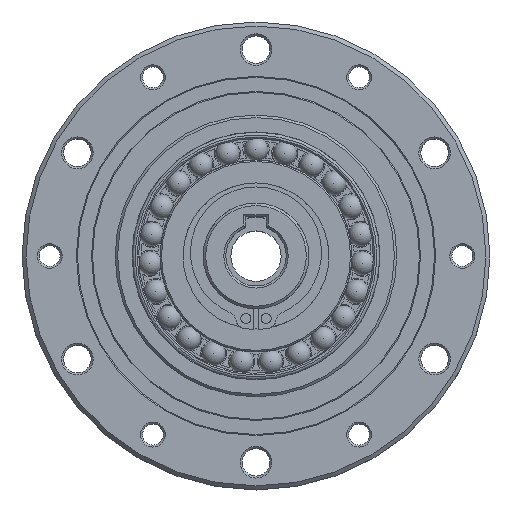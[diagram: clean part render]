
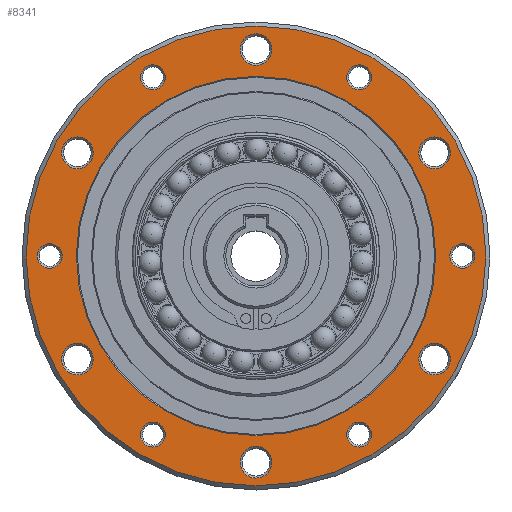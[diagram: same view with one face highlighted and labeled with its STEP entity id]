
A CAD part, top view. The second image highlights one B-rep face of the part: STEP entity #8341.
In plain terms, the highlighted planar face has unit normal (0, 0, 1).
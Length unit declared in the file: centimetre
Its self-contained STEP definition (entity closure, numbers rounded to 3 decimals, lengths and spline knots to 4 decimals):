
#1648=FACE_OUTER_BOUND($,#2571,.T.);
#2069=FACE_BOUND($,#2572,.T.);
#2070=FACE_BOUND($,#2573,.T.);
#2071=FACE_BOUND($,#2574,.T.);
#2072=FACE_BOUND($,#2575,.T.);
#2073=FACE_BOUND($,#2576,.T.);
#2074=FACE_BOUND($,#2577,.T.);
#2075=FACE_BOUND($,#2578,.T.);
#2076=FACE_BOUND($,#2579,.T.);
#2077=FACE_BOUND($,#2580,.T.);
#2078=FACE_BOUND($,#2581,.T.);
#2079=FACE_BOUND($,#2582,.T.);
#2080=FACE_BOUND($,#2583,.T.);
#2081=FACE_BOUND($,#2584,.T.);
#2571=EDGE_LOOP($,(#6590));
#2572=EDGE_LOOP($,(#6591));
#2573=EDGE_LOOP($,(#6592));
#2574=EDGE_LOOP($,(#6593));
#2575=EDGE_LOOP($,(#6594));
#2576=EDGE_LOOP($,(#6595));
#2577=EDGE_LOOP($,(#6596));
#2578=EDGE_LOOP($,(#6597));
#2579=EDGE_LOOP($,(#6598));
#2580=EDGE_LOOP($,(#6599));
#2581=EDGE_LOOP($,(#6600));
#2582=EDGE_LOOP($,(#6601));
#2583=EDGE_LOOP($,(#6602));
#2584=EDGE_LOOP($,(#6603));
#3537=CIRCLE($,#9332,4.57);
#3538=CIRCLE($,#9333,3.57);
#3539=CIRCLE($,#9334,0.315);
#3540=CIRCLE($,#9335,0.2467);
#3541=CIRCLE($,#9336,0.315);
#3542=CIRCLE($,#9337,0.2467);
#3543=CIRCLE($,#9338,0.315);
#3544=CIRCLE($,#9339,0.2467);
#3545=CIRCLE($,#9340,0.315);
#3546=CIRCLE($,#9341,0.2467);
#3547=CIRCLE($,#9342,0.315);
#3548=CIRCLE($,#9343,0.2467);
#3549=CIRCLE($,#9344,0.315);
#3550=CIRCLE($,#9345,0.2467);
#4218=VERTEX_POINT($,#14080);
#4219=VERTEX_POINT($,#14082);
#4220=VERTEX_POINT($,#14084);
#4221=VERTEX_POINT($,#14086);
#4222=VERTEX_POINT($,#14088);
#4223=VERTEX_POINT($,#14090);
#4224=VERTEX_POINT($,#14092);
#4225=VERTEX_POINT($,#14094);
#4226=VERTEX_POINT($,#14096);
#4227=VERTEX_POINT($,#14098);
#4228=VERTEX_POINT($,#14100);
#4229=VERTEX_POINT($,#14102);
#4230=VERTEX_POINT($,#14104);
#4231=VERTEX_POINT($,#14106);
#5150=EDGE_CURVE($,#4218,#4218,#3537,.T.);
#5151=EDGE_CURVE($,#4219,#4219,#3538,.T.);
#5152=EDGE_CURVE($,#4220,#4220,#3539,.T.);
#5153=EDGE_CURVE($,#4221,#4221,#3540,.T.);
#5154=EDGE_CURVE($,#4222,#4222,#3541,.T.);
#5155=EDGE_CURVE($,#4223,#4223,#3542,.T.);
#5156=EDGE_CURVE($,#4224,#4224,#3543,.T.);
#5157=EDGE_CURVE($,#4225,#4225,#3544,.T.);
#5158=EDGE_CURVE($,#4226,#4226,#3545,.T.);
#5159=EDGE_CURVE($,#4227,#4227,#3546,.T.);
#5160=EDGE_CURVE($,#4228,#4228,#3547,.T.);
#5161=EDGE_CURVE($,#4229,#4229,#3548,.T.);
#5162=EDGE_CURVE($,#4230,#4230,#3549,.T.);
#5163=EDGE_CURVE($,#4231,#4231,#3550,.T.);
#6590=ORIENTED_EDGE($,*,*,#5150,.F.);
#6591=ORIENTED_EDGE($,*,*,#5151,.F.);
#6592=ORIENTED_EDGE($,*,*,#5152,.F.);
#6593=ORIENTED_EDGE($,*,*,#5153,.F.);
#6594=ORIENTED_EDGE($,*,*,#5154,.F.);
#6595=ORIENTED_EDGE($,*,*,#5155,.F.);
#6596=ORIENTED_EDGE($,*,*,#5156,.F.);
#6597=ORIENTED_EDGE($,*,*,#5157,.F.);
#6598=ORIENTED_EDGE($,*,*,#5158,.F.);
#6599=ORIENTED_EDGE($,*,*,#5159,.F.);
#6600=ORIENTED_EDGE($,*,*,#5160,.F.);
#6601=ORIENTED_EDGE($,*,*,#5161,.F.);
#6602=ORIENTED_EDGE($,*,*,#5162,.F.);
#6603=ORIENTED_EDGE($,*,*,#5163,.F.);
#7983=PLANE($,#9331);
#8341=ADVANCED_FACE($,(#1648,#2069,#2070,#2071,#2072,#2073,#2074,#2075,
#2076,#2077,#2078,#2079,#2080,#2081),#7983,.T.);
#9331=AXIS2_PLACEMENT_3D($,#14079,#11369,#11370);
#9332=AXIS2_PLACEMENT_3D($,#14081,#11371,#11372);
#9333=AXIS2_PLACEMENT_3D($,#14083,#11373,#11374);
#9334=AXIS2_PLACEMENT_3D($,#14085,#11375,#11376);
#9335=AXIS2_PLACEMENT_3D($,#14087,#11377,#11378);
#9336=AXIS2_PLACEMENT_3D($,#14089,#11379,#11380);
#9337=AXIS2_PLACEMENT_3D($,#14091,#11381,#11382);
#9338=AXIS2_PLACEMENT_3D($,#14093,#11383,#11384);
#9339=AXIS2_PLACEMENT_3D($,#14095,#11385,#11386);
#9340=AXIS2_PLACEMENT_3D($,#14097,#11387,#11388);
#9341=AXIS2_PLACEMENT_3D($,#14099,#11389,#11390);
#9342=AXIS2_PLACEMENT_3D($,#14101,#11391,#11392);
#9343=AXIS2_PLACEMENT_3D($,#14103,#11393,#11394);
#9344=AXIS2_PLACEMENT_3D($,#14105,#11395,#11396);
#9345=AXIS2_PLACEMENT_3D($,#14107,#11397,#11398);
#11369=DIRECTION('center_axis',(0.,0.,
1.));
#11370=DIRECTION('ref_axis',(0.5,0.866,0.));
#11371=DIRECTION('center_axis',(0.,0.,
-1.));
#11372=DIRECTION('ref_axis',(0.866,-0.5,0.));
#11373=DIRECTION('center_axis',(0.,0.,
1.));
#11374=DIRECTION('ref_axis',(0.866,-0.5,0.));
#11375=DIRECTION('center_axis',(0.,0.,
1.));
#11376=DIRECTION('ref_axis',(-0.5,-0.866,0.));
#11377=DIRECTION('center_axis',(0.,0.,
1.));
#11378=DIRECTION('ref_axis',(-0.5,-0.866,0.));
#11379=DIRECTION('center_axis',(0.,0.,
1.));
#11380=DIRECTION('ref_axis',(-0.5,-0.866,0.));
#11381=DIRECTION('center_axis',(0.,0.,
1.));
#11382=DIRECTION('ref_axis',(-0.5,-0.866,0.));
#11383=DIRECTION('center_axis',(0.,0.,
1.));
#11384=DIRECTION('ref_axis',(-0.5,-0.866,0.));
#11385=DIRECTION('center_axis',(0.,0.,
1.));
#11386=DIRECTION('ref_axis',(-0.5,-0.866,0.));
#11387=DIRECTION('center_axis',(0.,0.,
1.));
#11388=DIRECTION('ref_axis',(-0.5,-0.866,0.));
#11389=DIRECTION('center_axis',(0.,0.,
1.));
#11390=DIRECTION('ref_axis',(-0.5,-0.866,0.));
#11391=DIRECTION('center_axis',(0.,0.,
1.));
#11392=DIRECTION('ref_axis',(-0.5,-0.866,0.));
#11393=DIRECTION('center_axis',(0.,0.,
1.));
#11394=DIRECTION('ref_axis',(-0.5,-0.866,0.));
#11395=DIRECTION('center_axis',(0.,0.,
1.));
#11396=DIRECTION('ref_axis',(-0.5,-0.866,0.));
#11397=DIRECTION('center_axis',(0.,0.,
1.));
#11398=DIRECTION('ref_axis',(-0.5,-0.866,0.));
#14079=CARTESIAN_POINT('Origin',(-6.9107,3.5703,0.1937));
#14080=CARTESIAN_POINT('',(-10.8685,5.8553,0.1937));
#14081=CARTESIAN_POINT('Origin',(-6.9107,3.5703,0.1937));
#14082=CARTESIAN_POINT('',(-10.0024,5.3553,0.1937));
#14083=CARTESIAN_POINT('Origin',(-6.9107,3.5703,0.1937));
#14084=CARTESIAN_POINT('',(-10.3039,5.893,0.1937));
#14085=CARTESIAN_POINT('Origin',(-10.4614,5.6203,0.1937));
#14086=CARTESIAN_POINT('',(-8.8374,7.3346,0.1937));
#14087=CARTESIAN_POINT('Origin',(-8.9607,7.121,0.1937));
#14088=CARTESIAN_POINT('',(-6.7532,7.943,0.1937));
#14089=CARTESIAN_POINT('Origin',(-6.9107,7.6703,0.1937));
#14090=CARTESIAN_POINT('',(-4.7374,7.3346,0.1937));
#14091=CARTESIAN_POINT('Origin',(-4.8607,7.121,0.1937));
#14092=CARTESIAN_POINT('',(-3.2025,5.893,0.1937));
#14093=CARTESIAN_POINT('Origin',(-3.36,5.6203,0.1937));
#14094=CARTESIAN_POINT('',(-2.6874,3.7839,0.1937));
#14095=CARTESIAN_POINT('Origin',(-2.8107,3.5703,0.1937));
#14096=CARTESIAN_POINT('',(-3.2025,1.793,0.1937));
#14097=CARTESIAN_POINT('Origin',(-3.36,1.5203,0.1937));
#14098=CARTESIAN_POINT('',(-4.7374,0.2332,0.1937));
#14099=CARTESIAN_POINT('Origin',(-4.8607,0.0195,0.1937));
#14100=CARTESIAN_POINT('',(-6.7532,-0.257,0.1937));
#14101=CARTESIAN_POINT('Origin',(-6.9107,-0.5297,0.1937));
#14102=CARTESIAN_POINT('',(-8.8374,0.2332,0.1937));
#14103=CARTESIAN_POINT('Origin',(-8.9607,0.0195,0.1937));
#14104=CARTESIAN_POINT('',(-10.3039,1.793,0.1937));
#14105=CARTESIAN_POINT('Origin',(-10.4614,1.5203,0.1937));
#14106=CARTESIAN_POINT('',(-10.8874,3.7839,0.1937));
#14107=CARTESIAN_POINT('Origin',(-11.0107,3.5703,0.1937));
